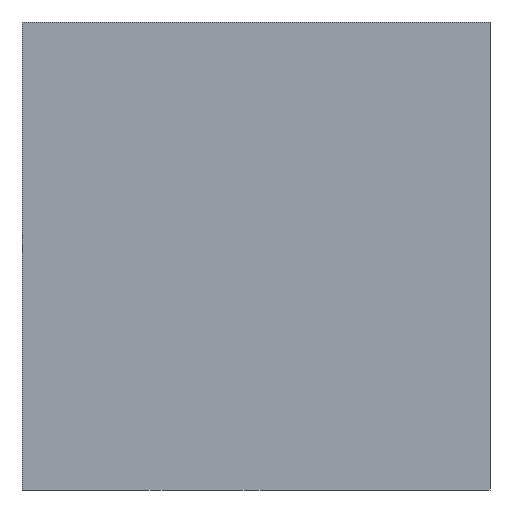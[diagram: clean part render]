
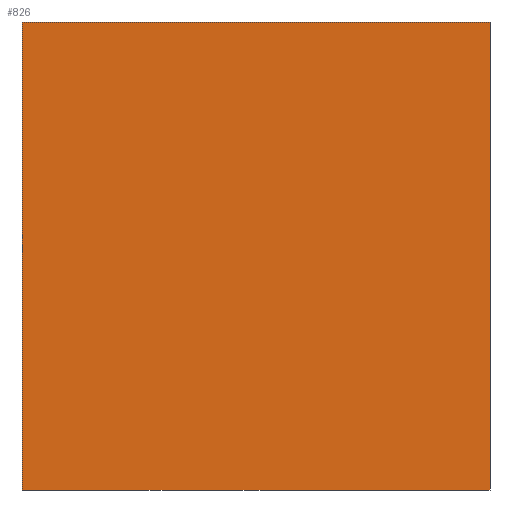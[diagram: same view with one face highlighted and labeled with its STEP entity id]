
A CAD part, left-side view. The second image highlights one B-rep face of the part: STEP entity #826.
In plain terms, the highlighted planar face has unit normal (-1, 0, 0).
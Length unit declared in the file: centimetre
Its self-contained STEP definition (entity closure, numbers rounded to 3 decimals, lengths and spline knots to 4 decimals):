
#20 = EDGE_CURVE ( 'NONE', #1058, #1001, #725, .T. ) ;
#51 = ORIENTED_EDGE ( 'NONE', *, *, #273, .T. ) ;
#72 = DIRECTION ( 'NONE',  ( 0., -1., 0. ) ) ;
#180 = CARTESIAN_POINT ( 'NONE',  ( 0., 0., 1000. ) ) ;
#224 = EDGE_CURVE ( 'NONE', #1058, #556, #987, .T. ) ;
#225 = LINE ( 'NONE', #733, #1546 ) ;
#233 = VECTOR ( 'NONE', #1124, 100. ) ;
#273 = EDGE_CURVE ( 'NONE', #556, #852, #225, .T. ) ;
#347 = VECTOR ( 'NONE', #72, 100. ) ;
#351 = FACE_OUTER_BOUND ( 'NONE', #693, .T. ) ;
#397 = CARTESIAN_POINT ( 'NONE',  ( 0., 0., 0. ) ) ;
#465 = CARTESIAN_POINT ( 'NONE',  ( 0., 1000., 1000. ) ) ;
#481 = PLANE ( 'NONE',  #1047 ) ;
#514 = DIRECTION ( 'NONE',  ( 0., -1., 0. ) ) ;
#556 = VERTEX_POINT ( 'NONE', #1104 ) ;
#693 = EDGE_LOOP ( 'NONE', ( #51, #1073, #931, #765 ) ) ;
#694 = VECTOR ( 'NONE', #1200, 100. ) ;
#725 = LINE ( 'NONE', #465, #347 ) ;
#733 = CARTESIAN_POINT ( 'NONE',  ( 0., 1000., 0. ) ) ;
#765 = ORIENTED_EDGE ( 'NONE', *, *, #224, .T. ) ;
#826 = ADVANCED_FACE ( 'NONE', ( #351 ), #481, .F. ) ;
#852 = VERTEX_POINT ( 'NONE', #397 ) ;
#931 = ORIENTED_EDGE ( 'NONE', *, *, #20, .F. ) ;
#939 = CARTESIAN_POINT ( 'NONE',  ( 0., 0., 1000. ) ) ;
#943 = EDGE_CURVE ( 'NONE', #1001, #852, #1532, .T. ) ;
#987 = LINE ( 'NONE', #1012, #233 ) ;
#1001 = VERTEX_POINT ( 'NONE', #180 ) ;
#1012 = CARTESIAN_POINT ( 'NONE',  ( 0., 1000., 1000. ) ) ;
#1047 = AXIS2_PLACEMENT_3D ( 'NONE', #1372, #1122, #1638 ) ;
#1058 = VERTEX_POINT ( 'NONE', #1109 ) ;
#1073 = ORIENTED_EDGE ( 'NONE', *, *, #943, .F. ) ;
#1104 = CARTESIAN_POINT ( 'NONE',  ( 0., 1000., 0. ) ) ;
#1109 = CARTESIAN_POINT ( 'NONE',  ( 0., 1000., 1000. ) ) ;
#1122 = DIRECTION ( 'NONE',  ( 1., 0., 0. ) ) ;
#1124 = DIRECTION ( 'NONE',  ( 0., 0., -1. ) ) ;
#1200 = DIRECTION ( 'NONE',  ( 0., 0., -1. ) ) ;
#1372 = CARTESIAN_POINT ( 'NONE',  ( 0., 1000., 1000. ) ) ;
#1532 = LINE ( 'NONE', #939, #694 ) ;
#1546 = VECTOR ( 'NONE', #514, 100. ) ;
#1638 = DIRECTION ( 'NONE',  ( 0., 0., -1. ) ) ;
